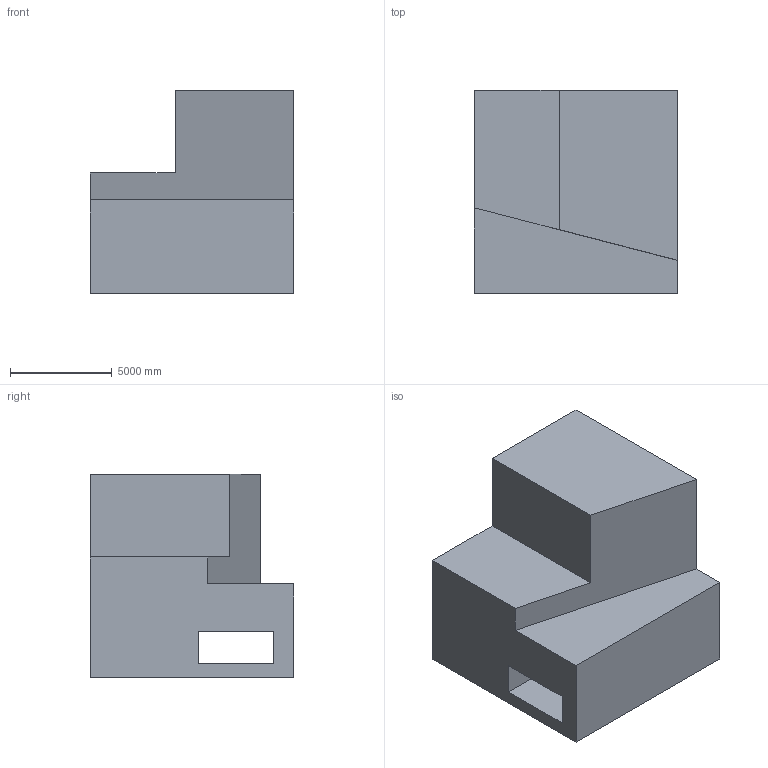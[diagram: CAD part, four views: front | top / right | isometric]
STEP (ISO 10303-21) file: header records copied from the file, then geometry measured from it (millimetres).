
FILE_DESCRIPTION (( 'STEP AP203' ), '1' );
FILE_NAME ('254.STEP', '2022-09-07T12:27:51', ( 'user' ), ( '' ), 'SwSTEP 2.0', 'SolidWorks 2021', '' );
FILE_SCHEMA (( 'CONFIG_CONTROL_DESIGN' ));
Length unit declared in the file: centimetre
Products named in the file (1): 254
Bounding box: 10000 x 10000 x 10000 mm (x, y, z)
Volume: 676313486198.2 mm3; surface area: 634266355.8 mm2
Topology: 1 solids, 1 shells, 14 faces, 36 edges, 24 vertices
Faces by surface type: plane 14
Entity records: 501 total; most frequent: CARTESIAN_POINT 75, ORIENTED_EDGE 72, DIRECTION 66, EDGE_CURVE 36, LINE 36, VECTOR 36, VERTEX_POINT 24, EDGE_LOOP 16
